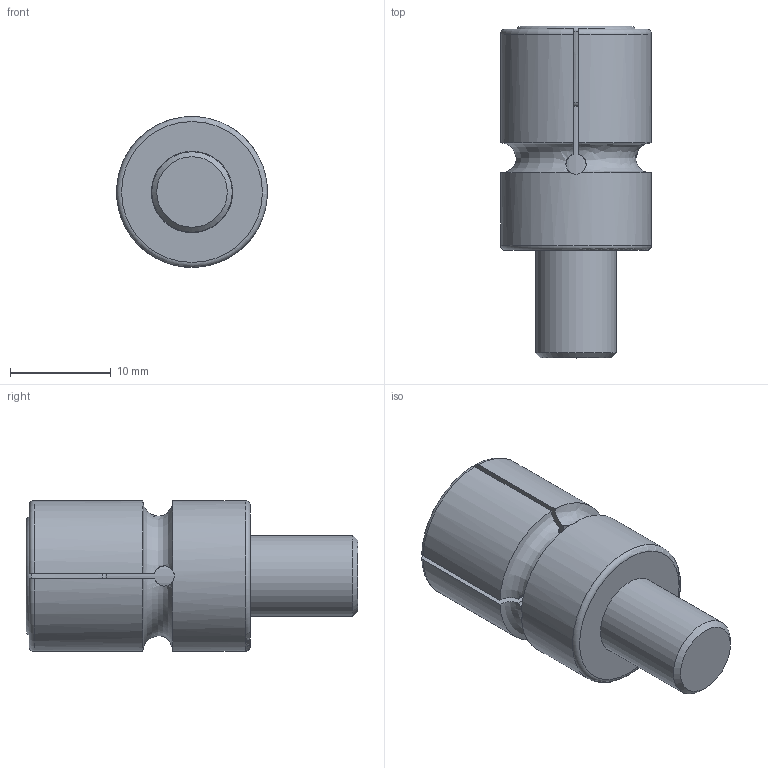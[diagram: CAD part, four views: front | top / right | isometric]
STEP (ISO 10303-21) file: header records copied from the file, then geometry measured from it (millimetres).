
FILE_DESCRIPTION(/* description */ (''),/* implementation_level */ '2;1');
FILE_NAME(/* name */ '15MM扩张销.stp',/* time_stamp */ '2023-11-24T01:12:48+08:00',/* author */ (''),/* organization */ (''),/* preprocessor_version */ 'ST-DEVELOPER v16',/* originating_system */ 'SIEMENS PLM Software NX 10.0',/* authorisation */ '');
FILE_SCHEMA (('CONFIG_CONTROL_DESIGN'));
Length unit declared in the file: millimetre
Products named in the file (1): 14MM扩张销_stp
Bounding box: 15 x 33 x 15 mm (x, y, z)
Volume: 4023.3 mm3; surface area: 3270.8 mm2
Topology: 2 solids, 2 shells, 57 faces, 148 edges, 96 vertices
Faces by surface type: plane 23, cylinder 17, torus 7, cone 6, bspline 4
Full cylindrical faces by diameter (mm): 8 x1, 8.1 x1, 15 x1
Entity records: 3476 total; most frequent: CARTESIAN_POINT 2134, ORIENTED_EDGE 272, DIRECTION 228, EDGE_CURVE 136, VERTEX_POINT 92, AXIS2_PLACEMENT_3D 86, EDGE_LOOP 68, ADVANCED_FACE 57
